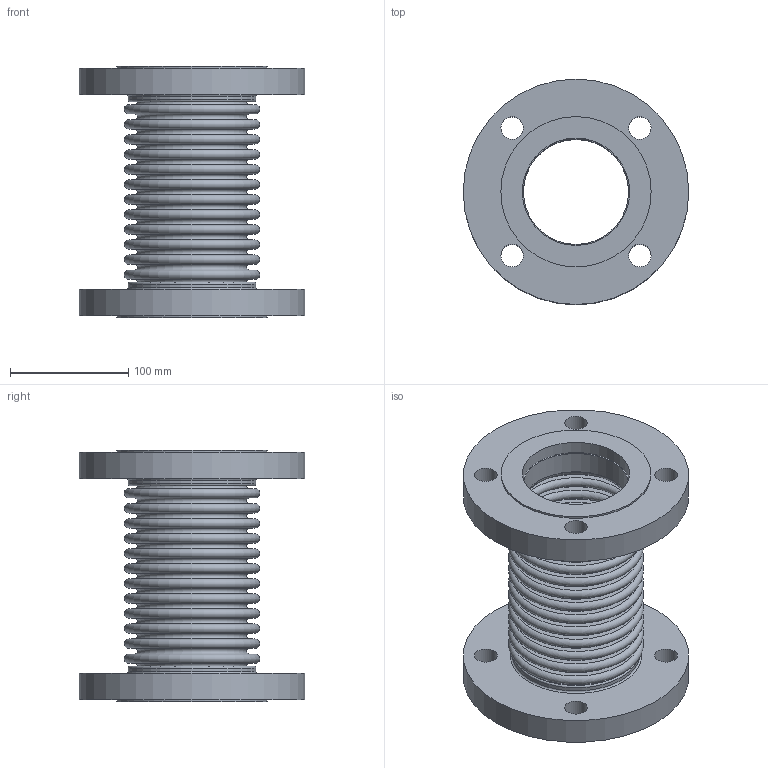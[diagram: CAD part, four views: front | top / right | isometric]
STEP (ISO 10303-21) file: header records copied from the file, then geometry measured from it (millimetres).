
FILE_DESCRIPTION(/* description */ ('EXPANSION JOINT,SINGLE, FLANGED ENDS,3 INCH NOMINAL','CAx-IF Rec.Pracs.---Representation and Presentation of Product Manufacturing Information (PMI)---4.0---2014-10-13'),/* implementation_level */ '2;1');
FILE_NAME(/* name */ 'US-03-12-300L-FLANGED ENDS.stp',/* time_stamp */ '2026-07-31T16:46:04-05:00',/* author */ ('Guadalupe'),/* organization */ (''),/* preprocessor_version */ 'ST-DEVELOPER v20.1',/* originating_system */ 'Autodesk Inventor 2026',/* authorisation */ '');
FILE_SCHEMA (('AP242_MANAGED_MODEL_BASED_3D_ENGINEERING_MIM_LF { 1 0 10303 442 2 1 4 }'));
Length unit declared in the file: inch
Products named in the file (3): 03-300L; 03-300L-02; 03-300L-01
Assembly tree (3 placements, depth 2):
  03-300L
    03-300L-02  x2
    03-300L-01
Bounding box: 190.5 x 190.5 x 212.34 mm (x, y, z)
Volume: 1175571.3 mm3; surface area: 393615.1 mm2
Topology: 5 solids, 5 shells, 136 faces, 222 edges, 148 vertices
Faces by surface type: plane 62, torus 54, cylinder 20
Full cylindrical faces by diameter (mm): 19.05 x8, 88.9 x2, 90.678 x2, 91.948 x2, 107.95 x2, 127 x2, 190.5 x2
Entity records: 3138 total; most frequent: DIRECTION 654, CARTESIAN_POINT 465, ORIENTED_EDGE 384, AXIS2_PLACEMENT_3D 321, EDGE_CURVE 192, EDGE_LOOP 188, CIRCLE 180, VERTEX_POINT 128
